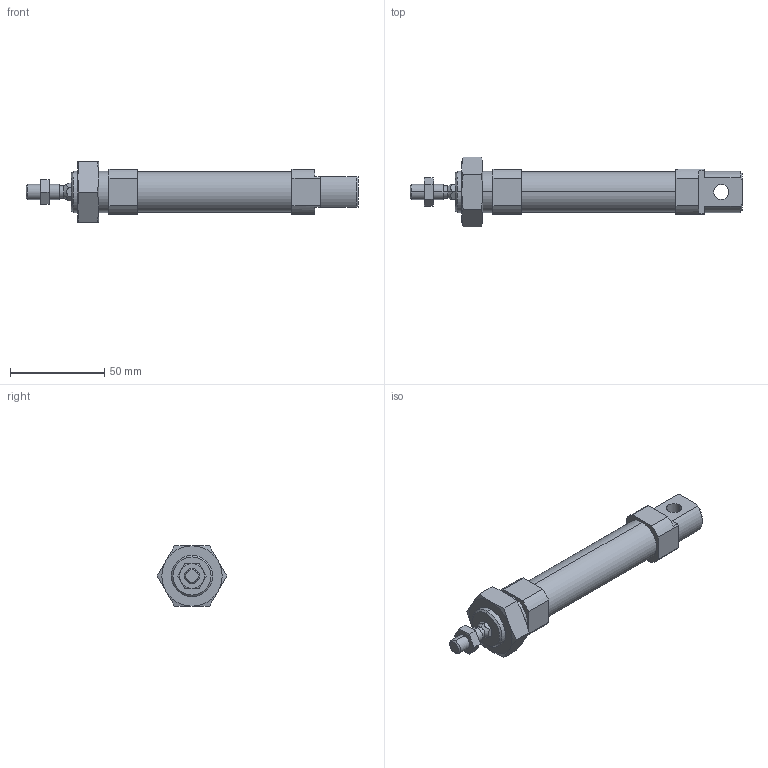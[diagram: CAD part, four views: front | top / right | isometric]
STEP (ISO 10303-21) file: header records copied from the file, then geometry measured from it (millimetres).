
FILE_DESCRIPTION (( 'STEP AP203' ), '1' );
FILE_NAME ('CSMK20-50.STEP', '2020-04-02T10:47:17', ( '' ), ( '' ), 'SwSTEP 2.0', 'SolidWorks 2019', '' );
FILE_SCHEMA (( 'CONFIG_CONTROL_DESIGN' ));
Length unit declared in the file: millimetre
Products named in the file (1): CSMK20-50
Bounding box: 176 x 36.95 x 32 mm (x, y, z)
Volume: 53011.2 mm3; surface area: 25171.5 mm2
Topology: 4 solids, 4 shells, 133 faces, 306 edges, 187 vertices
Faces by surface type: plane 53, cone 48, cylinder 32
Entity records: 4251 total; most frequent: CARTESIAN_POINT 1191, DIRECTION 626, ORIENTED_EDGE 608, EDGE_CURVE 304, AXIS2_PLACEMENT_3D 246, VERTEX_POINT 187, EDGE_LOOP 149, VECTOR 134
